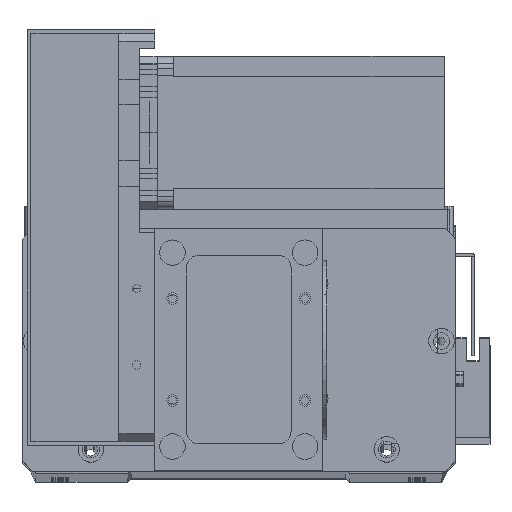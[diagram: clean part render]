
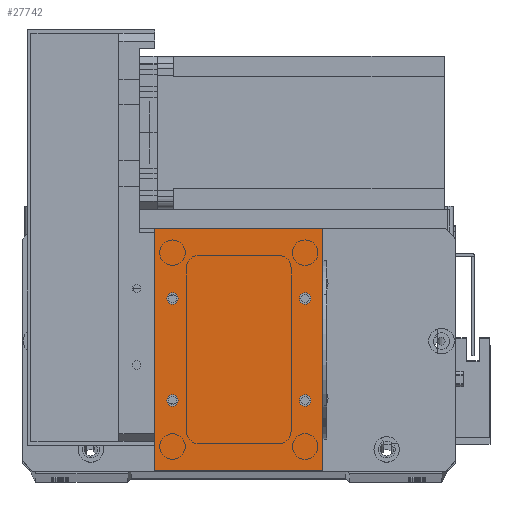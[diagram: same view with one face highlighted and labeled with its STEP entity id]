
A CAD part, top view. The second image highlights one B-rep face of the part: STEP entity #27742.
In plain terms, the highlighted planar face has unit normal (0, 0, 1).
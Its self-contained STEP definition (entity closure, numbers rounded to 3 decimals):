
#317 = CARTESIAN_POINT ( 'NONE',  ( 0., 0., 2. ) ) ;
#559 = CARTESIAN_POINT ( 'NONE',  ( 56.75, 67.5, 2. ) ) ;
#1013 = FACE_BOUND ( 'NONE', #2122, .T. ) ;
#1210 = CARTESIAN_POINT ( 'NONE',  ( 59., 27.5, 2. ) ) ;
#1443 = EDGE_LOOP ( 'NONE', ( #17791, #31459 ) ) ;
#1482 = EDGE_CURVE ( 'NONE', #5358, #7396, #7685, .T. ) ;
#1619 = VERTEX_POINT ( 'NONE', #11756 ) ;
#2069 = ORIENTED_EDGE ( 'NONE', *, *, #5335, .T. ) ;
#2122 = EDGE_LOOP ( 'NONE', ( #8218, #4899 ) ) ;
#2185 = DIRECTION ( 'NONE',  ( 0., 0., 1. ) ) ;
#2350 = CARTESIAN_POINT ( 'NONE',  ( 0., 0., 2. ) ) ;
#2584 = AXIS2_PLACEMENT_3D ( 'NONE', #28966, #13746, #31517 ) ;
#2683 = CARTESIAN_POINT ( 'NONE',  ( 4.75, 27.5, 2. ) ) ;
#2728 = CARTESIAN_POINT ( 'NONE',  ( 66., 0., 2. ) ) ;
#2862 = EDGE_CURVE ( 'NONE', #31327, #22317, #21946, .T. ) ;
#3609 = LINE ( 'NONE', #2728, #29890 ) ;
#3765 = DIRECTION ( 'NONE',  ( 1., 0., 0. ) ) ;
#3934 = CARTESIAN_POINT ( 'NONE',  ( 9.25, 67.5, 2. ) ) ;
#4020 = CIRCLE ( 'NONE', #21381, 2.25 ) ;
#4216 = ORIENTED_EDGE ( 'NONE', *, *, #29981, .F. ) ;
#4608 = PLANE ( 'NONE',  #30005 ) ;
#4899 = ORIENTED_EDGE ( 'NONE', *, *, #31931, .F. ) ;
#5030 = CIRCLE ( 'NONE', #16936, 2.25 ) ;
#5178 = CIRCLE ( 'NONE', #21215, 2.25 ) ;
#5335 = EDGE_CURVE ( 'NONE', #31245, #10678, #16708, .T. ) ;
#5358 = VERTEX_POINT ( 'NONE', #30900 ) ;
#5452 = CARTESIAN_POINT ( 'NONE',  ( 7., 27.5, 2. ) ) ;
#5613 = ORIENTED_EDGE ( 'NONE', *, *, #27289, .F. ) ;
#6725 = AXIS2_PLACEMENT_3D ( 'NONE', #24585, #9287, #27102 ) ;
#6750 = VERTEX_POINT ( 'NONE', #14477 ) ;
#6953 = CIRCLE ( 'NONE', #23232, 2.25 ) ;
#7163 = DIRECTION ( 'NONE',  ( 0., 0., -1. ) ) ;
#7396 = VERTEX_POINT ( 'NONE', #12007 ) ;
#7604 = CARTESIAN_POINT ( 'NONE',  ( 0., 95., 2. ) ) ;
#7685 = CIRCLE ( 'NONE', #23547, 2.25 ) ;
#7779 = FACE_BOUND ( 'NONE', #20820, .T. ) ;
#7814 = CIRCLE ( 'NONE', #6725, 2.25 ) ;
#8029 = DIRECTION ( 'NONE',  ( 1., 0., 0. ) ) ;
#8218 = ORIENTED_EDGE ( 'NONE', *, *, #1482, .F. ) ;
#8409 = DIRECTION ( 'NONE',  ( 0., 0., 1. ) ) ;
#8813 = CIRCLE ( 'NONE', #2584, 2.25 ) ;
#8866 = CARTESIAN_POINT ( 'NONE',  ( 0., 95., 2. ) ) ;
#9287 = DIRECTION ( 'NONE',  ( 0., 0., 1. ) ) ;
#9442 = CARTESIAN_POINT ( 'NONE',  ( 66., 0., 2. ) ) ;
#9576 = DIRECTION ( 'NONE',  ( 0., 0., 1. ) ) ;
#9914 = VECTOR ( 'NONE', #23257, 1000. ) ;
#10678 = VERTEX_POINT ( 'NONE', #9442 ) ;
#11433 = DIRECTION ( 'NONE',  ( -1., 0., 0. ) ) ;
#11504 = VERTEX_POINT ( 'NONE', #559 ) ;
#11512 = VECTOR ( 'NONE', #11433, 1000. ) ;
#11756 = CARTESIAN_POINT ( 'NONE',  ( 61.25, 67.5, 2. ) ) ;
#12007 = CARTESIAN_POINT ( 'NONE',  ( 56.75, 27.5, 2. ) ) ;
#12525 = VERTEX_POINT ( 'NONE', #22220 ) ;
#13746 = DIRECTION ( 'NONE',  ( 0., 0., 1. ) ) ;
#14477 = CARTESIAN_POINT ( 'NONE',  ( 4.75, 67.5, 2. ) ) ;
#14836 = ORIENTED_EDGE ( 'NONE', *, *, #24705, .F. ) ;
#15056 = DIRECTION ( 'NONE',  ( 0., 0., 1. ) ) ;
#15339 = VECTOR ( 'NONE', #19476, 1000. ) ;
#15378 = FACE_OUTER_BOUND ( 'NONE', #19771, .T. ) ;
#16437 = ORIENTED_EDGE ( 'NONE', *, *, #18881, .T. ) ;
#16708 = LINE ( 'NONE', #317, #9914 ) ;
#16936 = AXIS2_PLACEMENT_3D ( 'NONE', #23697, #8409, #26236 ) ;
#17447 = CARTESIAN_POINT ( 'NONE',  ( 7., 67.5, 2. ) ) ;
#17791 = ORIENTED_EDGE ( 'NONE', *, *, #30085, .F. ) ;
#18650 = AXIS2_PLACEMENT_3D ( 'NONE', #5452, #23320, #8029 ) ;
#18881 = EDGE_CURVE ( 'NONE', #10678, #12525, #3609, .T. ) ;
#19039 = DIRECTION ( 'NONE',  ( 0., 0., 1. ) ) ;
#19476 = DIRECTION ( 'NONE',  ( 0., -1., 0. ) ) ;
#19603 = EDGE_CURVE ( 'NONE', #12525, #29710, #19915, .T. ) ;
#19771 = EDGE_LOOP ( 'NONE', ( #26446, #2069, #16437, #24886 ) ) ;
#19880 = CARTESIAN_POINT ( 'NONE',  ( 0., 0., 2. ) ) ;
#19915 = LINE ( 'NONE', #8866, #11512 ) ;
#19987 = DIRECTION ( 'NONE',  ( 1., 0., 0. ) ) ;
#20320 = VERTEX_POINT ( 'NONE', #3934 ) ;
#20820 = EDGE_LOOP ( 'NONE', ( #32160, #5613 ) ) ;
#21143 = EDGE_LOOP ( 'NONE', ( #14836, #4216 ) ) ;
#21215 = AXIS2_PLACEMENT_3D ( 'NONE', #30281, #15056, #32856 ) ;
#21352 = FACE_BOUND ( 'NONE', #21143, .T. ) ;
#21381 = AXIS2_PLACEMENT_3D ( 'NONE', #24870, #9576, #27402 ) ;
#21946 = CIRCLE ( 'NONE', #18650, 2.25 ) ;
#22106 = LINE ( 'NONE', #27029, #15339 ) ;
#22220 = CARTESIAN_POINT ( 'NONE',  ( 66., 95., 2. ) ) ;
#22317 = VERTEX_POINT ( 'NONE', #27324 ) ;
#23232 = AXIS2_PLACEMENT_3D ( 'NONE', #17447, #2185, #19987 ) ;
#23257 = DIRECTION ( 'NONE',  ( 1., 0., 0. ) ) ;
#23320 = DIRECTION ( 'NONE',  ( 0., 0., 1. ) ) ;
#23500 = EDGE_CURVE ( 'NONE', #29710, #31245, #22106, .T. ) ;
#23547 = AXIS2_PLACEMENT_3D ( 'NONE', #1210, #19039, #3765 ) ;
#23697 = CARTESIAN_POINT ( 'NONE',  ( 59., 27.5, 2. ) ) ;
#24585 = CARTESIAN_POINT ( 'NONE',  ( 7., 67.5, 2. ) ) ;
#24705 = EDGE_CURVE ( 'NONE', #1619, #11504, #5178, .T. ) ;
#24870 = CARTESIAN_POINT ( 'NONE',  ( 7., 27.5, 2. ) ) ;
#24886 = ORIENTED_EDGE ( 'NONE', *, *, #19603, .T. ) ;
#25023 = DIRECTION ( 'NONE',  ( -1., 0., 0. ) ) ;
#26236 = DIRECTION ( 'NONE',  ( 1., 0., 0. ) ) ;
#26446 = ORIENTED_EDGE ( 'NONE', *, *, #23500, .T. ) ;
#27029 = CARTESIAN_POINT ( 'NONE',  ( 0., 0., 2. ) ) ;
#27102 = DIRECTION ( 'NONE',  ( 1., 0., 0. ) ) ;
#27289 = EDGE_CURVE ( 'NONE', #6750, #20320, #7814, .T. ) ;
#27292 = FACE_BOUND ( 'NONE', #1443, .T. ) ;
#27324 = CARTESIAN_POINT ( 'NONE',  ( 9.25, 27.5, 2. ) ) ;
#27402 = DIRECTION ( 'NONE',  ( 1., 0., 0. ) ) ;
#27742 = ADVANCED_FACE ( 'NONE', ( #7779, #21352, #1013, #27292, #15378 ), #4608, .F. ) ;
#27753 = EDGE_CURVE ( 'NONE', #20320, #6750, #6953, .T. ) ;
#28966 = CARTESIAN_POINT ( 'NONE',  ( 59., 67.5, 2. ) ) ;
#29710 = VERTEX_POINT ( 'NONE', #7604 ) ;
#29890 = VECTOR ( 'NONE', #30666, 1000. ) ;
#29981 = EDGE_CURVE ( 'NONE', #11504, #1619, #8813, .T. ) ;
#30005 = AXIS2_PLACEMENT_3D ( 'NONE', #19880, #7163, #25023 ) ;
#30085 = EDGE_CURVE ( 'NONE', #22317, #31327, #4020, .T. ) ;
#30281 = CARTESIAN_POINT ( 'NONE',  ( 59., 67.5, 2. ) ) ;
#30666 = DIRECTION ( 'NONE',  ( 0., 1., 0. ) ) ;
#30900 = CARTESIAN_POINT ( 'NONE',  ( 61.25, 27.5, 2. ) ) ;
#31245 = VERTEX_POINT ( 'NONE', #2350 ) ;
#31327 = VERTEX_POINT ( 'NONE', #2683 ) ;
#31459 = ORIENTED_EDGE ( 'NONE', *, *, #2862, .F. ) ;
#31517 = DIRECTION ( 'NONE',  ( 1., 0., 0. ) ) ;
#31931 = EDGE_CURVE ( 'NONE', #7396, #5358, #5030, .T. ) ;
#32160 = ORIENTED_EDGE ( 'NONE', *, *, #27753, .F. ) ;
#32856 = DIRECTION ( 'NONE',  ( 1., 0., 0. ) ) ;
